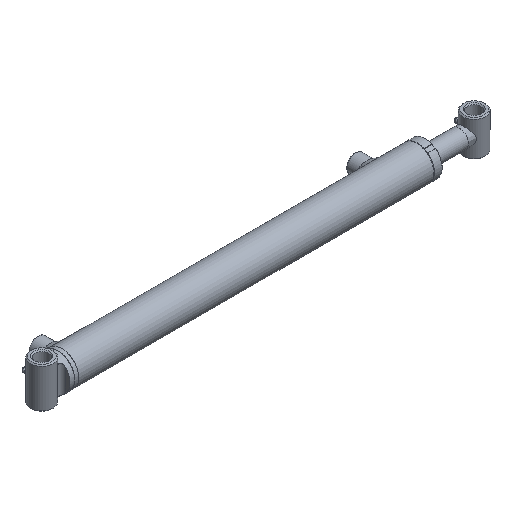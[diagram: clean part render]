
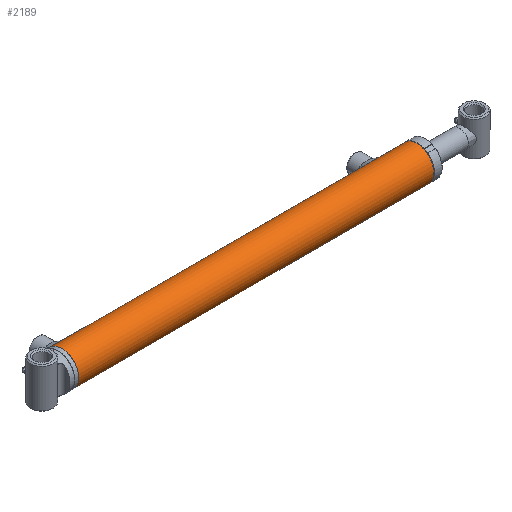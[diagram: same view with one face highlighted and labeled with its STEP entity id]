
A CAD part, isometric view. The second image highlights one B-rep face of the part: STEP entity #2189.
In plain terms, the highlighted cylindrical face has radius 23.812 mm (diameter 47.625 mm), a full revolution.
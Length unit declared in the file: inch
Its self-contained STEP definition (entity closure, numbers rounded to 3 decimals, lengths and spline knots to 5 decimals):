
#387=FACE_BOUND('',#697,.T.);
#388=FACE_BOUND('',#698,.T.);
#389=FACE_BOUND('',#699,.T.);
#509=FACE_OUTER_BOUND('',#696,.T.);
#696=EDGE_LOOP('',(#1677));
#697=EDGE_LOOP('',(#1678));
#698=EDGE_LOOP('',(#1679));
#699=EDGE_LOOP('',(#1680));
#933=CIRCLE('',#2369,0.9375);
#937=CIRCLE('',#2377,0.9375);
#1070=B_SPLINE_CURVE_WITH_KNOTS('',3,(#4835,#4836,#4837,#4838,#4839,#4840,
#4841,#4842,#4843,#4844,#4845,#4846,#4847,#4848,#4849,#4850,#4851,#4852,
#4853,#4854,#4855,#4856,#4857,#4858,#4859,#4860,#4861,#4862,#4863,#4864,
#4865,#4866,#4867,#4868),.UNSPECIFIED.,.T.,.F.,(4,2,2,2,2,2,2,2,2,2,2,2,
2,2,2,2,4),(0.,0.18896,0.37791,0.56686,0.7558,
0.94474,1.13369,1.32264,1.5116,1.70055,
1.88951,2.07845,2.2674,2.45634,2.64528,
2.83424,3.0232),.UNSPECIFIED.);
#1072=B_SPLINE_CURVE_WITH_KNOTS('',3,(#5028,#5029,#5030,#5031,#5032,#5033,
#5034,#5035,#5036,#5037,#5038,#5039,#5040,#5041,#5042,#5043,#5044,#5045,
#5046,#5047,#5048,#5049,#5050,#5051,#5052,#5053,#5054,#5055,#5056,#5057,
#5058,#5059,#5060,#5061),.UNSPECIFIED.,.T.,.F.,(4,2,2,2,2,2,2,2,2,2,2,2,
2,2,2,2,4),(0.,0.18896,0.37791,0.56686,0.7558,
0.94474,1.13369,1.32264,1.5116,1.70055,
1.88951,2.07845,2.2674,2.45634,2.64528,
2.83424,3.0232),.UNSPECIFIED.);
#1126=VERTEX_POINT('',#4834);
#1128=VERTEX_POINT('',#5027);
#1132=VERTEX_POINT('',#5071);
#1136=VERTEX_POINT('',#5083);
#1345=EDGE_CURVE('',#1126,#1126,#1070,.T.);
#1348=EDGE_CURVE('',#1128,#1128,#1072,.T.);
#1352=EDGE_CURVE('',#1132,#1132,#933,.T.);
#1356=EDGE_CURVE('',#1136,#1136,#937,.T.);
#1677=ORIENTED_EDGE('',*,*,#1356,.T.);
#1678=ORIENTED_EDGE('',*,*,#1345,.T.);
#1679=ORIENTED_EDGE('',*,*,#1348,.T.);
#1680=ORIENTED_EDGE('',*,*,#1352,.F.);
#2120=CYLINDRICAL_SURFACE('',#2379,0.9375);
#2189=ADVANCED_FACE('',(#509,#387,#388,#389),#2120,.T.);
#2369=AXIS2_PLACEMENT_3D('',#5072,#2714,#2715);
#2377=AXIS2_PLACEMENT_3D('',#5084,#2730,#2731);
#2379=AXIS2_PLACEMENT_3D('',#5086,#2734,#2735);
#2714=DIRECTION('center_axis',(1.,0.,0.));
#2715=DIRECTION('ref_axis',(0.,-1.,0.));
#2730=DIRECTION('center_axis',(1.,0.,0.));
#2731=DIRECTION('ref_axis',(0.,-1.,0.));
#2734=DIRECTION('center_axis',(1.,0.,0.));
#2735=DIRECTION('ref_axis',(0.,-1.,0.));
#4834=CARTESIAN_POINT('',(8.22195,0.9166,-0.19685));
#4835=CARTESIAN_POINT('Ctrl Pts',(8.22195,0.9166,-0.19685));
#4836=CARTESIAN_POINT('Ctrl Pts',(8.24675,0.9166,-0.19685));
#4837=CARTESIAN_POINT('Ctrl Pts',(8.27314,0.91771,-0.19188));
#4838=CARTESIAN_POINT('Ctrl Pts',(8.32162,0.92169,-0.17177));
#4839=CARTESIAN_POINT('Ctrl Pts',(8.34371,0.92449,-0.15663));
#4840=CARTESIAN_POINT('Ctrl Pts',(8.37858,0.92973,-0.12176));
#4841=CARTESIAN_POINT('Ctrl Pts',(8.39372,0.9325,-0.09967));
#4842=CARTESIAN_POINT('Ctrl Pts',(8.41383,0.93642,-0.05119));
#4843=CARTESIAN_POINT('Ctrl Pts',(8.4188,0.9375,-0.0248));
#4844=CARTESIAN_POINT('Ctrl Pts',(8.4188,0.9375,0.0248));
#4845=CARTESIAN_POINT('Ctrl Pts',(8.41383,0.93642,0.05119));
#4846=CARTESIAN_POINT('Ctrl Pts',(8.39372,0.9325,0.09967));
#4847=CARTESIAN_POINT('Ctrl Pts',(8.37858,0.92973,0.12176));
#4848=CARTESIAN_POINT('Ctrl Pts',(8.34371,0.92449,0.15663));
#4849=CARTESIAN_POINT('Ctrl Pts',(8.32162,0.92169,0.17177));
#4850=CARTESIAN_POINT('Ctrl Pts',(8.27314,0.91771,0.19188));
#4851=CARTESIAN_POINT('Ctrl Pts',(8.24675,0.9166,0.19685));
#4852=CARTESIAN_POINT('Ctrl Pts',(8.19715,0.9166,0.19685));
#4853=CARTESIAN_POINT('Ctrl Pts',(8.17075,0.91771,0.19188));
#4854=CARTESIAN_POINT('Ctrl Pts',(8.12228,0.92169,0.17177));
#4855=CARTESIAN_POINT('Ctrl Pts',(8.10019,0.92449,0.15663));
#4856=CARTESIAN_POINT('Ctrl Pts',(8.06532,0.92973,0.12176));
#4857=CARTESIAN_POINT('Ctrl Pts',(8.05018,0.9325,0.09967));
#4858=CARTESIAN_POINT('Ctrl Pts',(8.03007,0.93642,0.05119));
#4859=CARTESIAN_POINT('Ctrl Pts',(8.0251,0.9375,0.0248));
#4860=CARTESIAN_POINT('Ctrl Pts',(8.0251,0.9375,-0.0248));
#4861=CARTESIAN_POINT('Ctrl Pts',(8.03007,0.93642,-0.05119));
#4862=CARTESIAN_POINT('Ctrl Pts',(8.05018,0.9325,-0.09967));
#4863=CARTESIAN_POINT('Ctrl Pts',(8.06532,0.92973,-0.12176));
#4864=CARTESIAN_POINT('Ctrl Pts',(8.10019,0.92449,-0.15663));
#4865=CARTESIAN_POINT('Ctrl Pts',(8.12228,0.92169,-0.17177));
#4866=CARTESIAN_POINT('Ctrl Pts',(8.17075,0.91771,-0.19188));
#4867=CARTESIAN_POINT('Ctrl Pts',(8.19715,0.9166,-0.19685));
#4868=CARTESIAN_POINT('Ctrl Pts',(8.22195,0.9166,-0.19685));
#5027=CARTESIAN_POINT('',(-9.40305,0.9166,-0.19685));
#5028=CARTESIAN_POINT('Ctrl Pts',(-9.40305,0.9166,-0.19685));
#5029=CARTESIAN_POINT('Ctrl Pts',(-9.37825,0.9166,-0.19685));
#5030=CARTESIAN_POINT('Ctrl Pts',(-9.35186,0.91771,-0.19188));
#5031=CARTESIAN_POINT('Ctrl Pts',(-9.30338,0.92169,-0.17177));
#5032=CARTESIAN_POINT('Ctrl Pts',(-9.28129,0.92449,-0.15663));
#5033=CARTESIAN_POINT('Ctrl Pts',(-9.24642,0.92973,-0.12176));
#5034=CARTESIAN_POINT('Ctrl Pts',(-9.23128,0.9325,-0.09967));
#5035=CARTESIAN_POINT('Ctrl Pts',(-9.21117,0.93642,-0.05119));
#5036=CARTESIAN_POINT('Ctrl Pts',(-9.2062,0.9375,-0.0248));
#5037=CARTESIAN_POINT('Ctrl Pts',(-9.2062,0.9375,0.0248));
#5038=CARTESIAN_POINT('Ctrl Pts',(-9.21117,0.93642,0.05119));
#5039=CARTESIAN_POINT('Ctrl Pts',(-9.23128,0.9325,0.09967));
#5040=CARTESIAN_POINT('Ctrl Pts',(-9.24642,0.92973,0.12176));
#5041=CARTESIAN_POINT('Ctrl Pts',(-9.28129,0.92449,0.15663));
#5042=CARTESIAN_POINT('Ctrl Pts',(-9.30338,0.92169,0.17177));
#5043=CARTESIAN_POINT('Ctrl Pts',(-9.35186,0.91771,0.19188));
#5044=CARTESIAN_POINT('Ctrl Pts',(-9.37825,0.9166,0.19685));
#5045=CARTESIAN_POINT('Ctrl Pts',(-9.42785,0.9166,0.19685));
#5046=CARTESIAN_POINT('Ctrl Pts',(-9.45425,0.91771,0.19188));
#5047=CARTESIAN_POINT('Ctrl Pts',(-9.50272,0.92169,0.17177));
#5048=CARTESIAN_POINT('Ctrl Pts',(-9.52481,0.92449,0.15663));
#5049=CARTESIAN_POINT('Ctrl Pts',(-9.55968,0.92973,0.12176));
#5050=CARTESIAN_POINT('Ctrl Pts',(-9.57482,0.9325,0.09967));
#5051=CARTESIAN_POINT('Ctrl Pts',(-9.59493,0.93642,0.05119));
#5052=CARTESIAN_POINT('Ctrl Pts',(-9.5999,0.9375,0.0248));
#5053=CARTESIAN_POINT('Ctrl Pts',(-9.5999,0.9375,-0.0248));
#5054=CARTESIAN_POINT('Ctrl Pts',(-9.59493,0.93642,-0.05119));
#5055=CARTESIAN_POINT('Ctrl Pts',(-9.57482,0.9325,-0.09967));
#5056=CARTESIAN_POINT('Ctrl Pts',(-9.55968,0.92973,-0.12176));
#5057=CARTESIAN_POINT('Ctrl Pts',(-9.52481,0.92449,-0.15663));
#5058=CARTESIAN_POINT('Ctrl Pts',(-9.50272,0.92169,-0.17177));
#5059=CARTESIAN_POINT('Ctrl Pts',(-9.45425,0.91771,-0.19188));
#5060=CARTESIAN_POINT('Ctrl Pts',(-9.42785,0.9166,-0.19685));
#5061=CARTESIAN_POINT('Ctrl Pts',(-9.40305,0.9166,-0.19685));
#5071=CARTESIAN_POINT('',(9.95423,0.9375,0.));
#5072=CARTESIAN_POINT('Origin',(9.95423,0.,0.));
#5083=CARTESIAN_POINT('',(-9.78445,0.9375,0.));
#5084=CARTESIAN_POINT('Origin',(-9.78445,0.,0.));
#5086=CARTESIAN_POINT('Origin',(0.,0.,0.));
